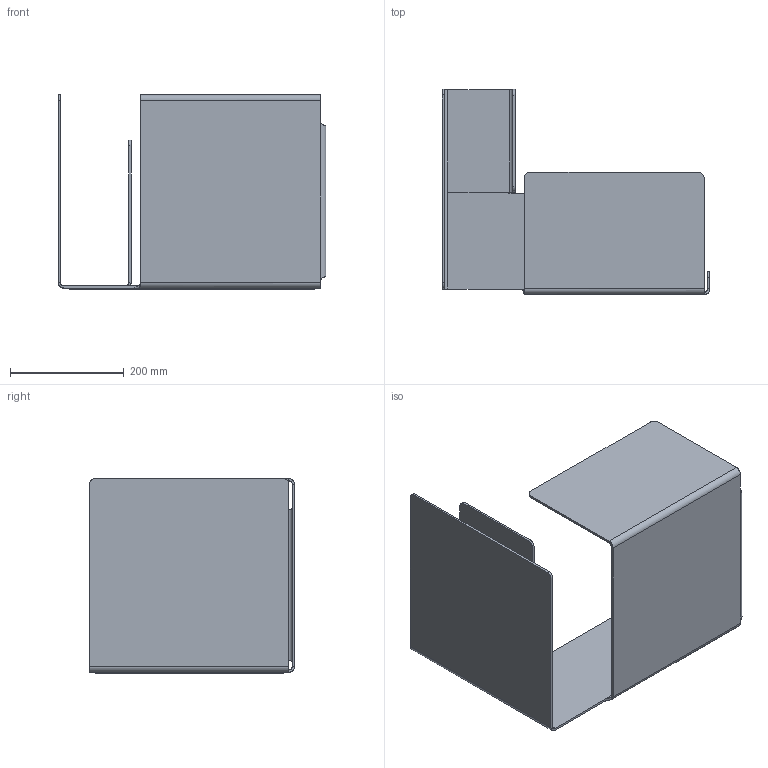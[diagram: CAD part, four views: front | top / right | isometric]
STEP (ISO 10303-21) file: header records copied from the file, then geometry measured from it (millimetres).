
FILE_DESCRIPTION(/* description */ (''),/* implementation_level */ '2;1');
FILE_NAME(/* name */ 'KG_Diana_C_3D_JS_20230718',/* time_stamp */ '2023-07-18T11:10:04+02:00',/* author */ (''),/* organization */ (''),/* preprocessor_version */ 'ST-DEVELOPER v16.5',/* originating_system */ 'Rhino 7.31',/* authorisation */ '');
FILE_SCHEMA (('CONFIG_CONTROL_DESIGN'));
Length unit declared in the file: millimetre
Products named in the file (1): Document
Bounding box: 470 x 360 x 342 mm (x, y, z)
Volume: 159312 mm3; surface area: 909177.8 mm2
Topology: 1 solids, 2 shells, 62 faces, 147 edges, 87 vertices
Faces by surface type: plane 42, cylinder 16, bspline 4
Entity records: 1856 total; most frequent: CARTESIAN_POINT 745, ORIENTED_EDGE 276, EDGE_CURVE 147, B_SPLINE_CURVE_WITH_KNOTS 139, VERTEX_POINT 87, DIRECTION 64, ADVANCED_FACE 62, FACE_OUTER_BOUND 62
